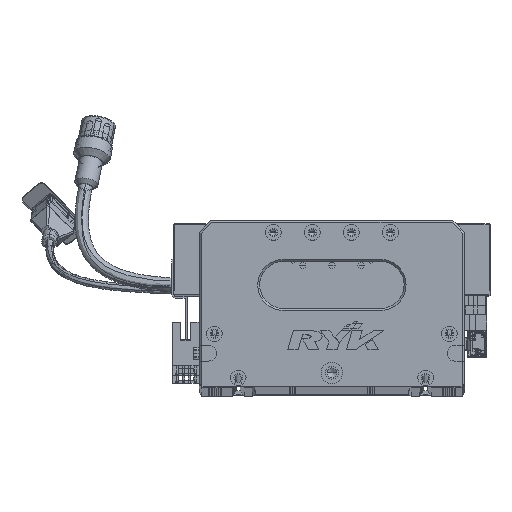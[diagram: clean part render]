
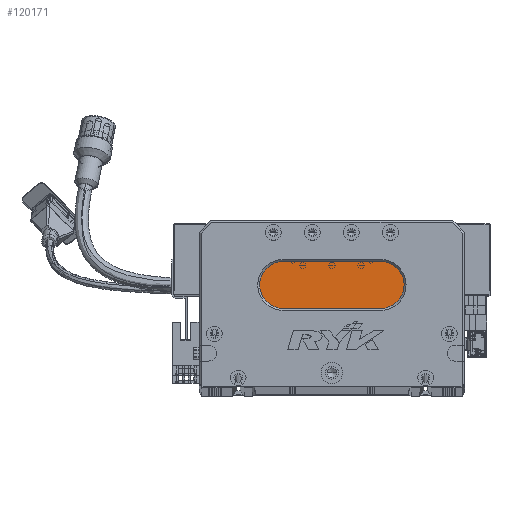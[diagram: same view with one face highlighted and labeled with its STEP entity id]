
A CAD part, top view. The second image highlights one B-rep face of the part: STEP entity #120171.
In plain terms, the highlighted planar face has unit normal (0, 0, 1) as drawn and (0, 0, -1) by its records, which use the part's own axes.
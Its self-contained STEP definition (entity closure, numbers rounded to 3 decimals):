
#10664 = VECTOR ( 'NONE', #104779, 1000. ) ;
#13291 = EDGE_CURVE ( 'NONE', #73472, #84808, #92854, .T. ) ;
#13769 = CARTESIAN_POINT ( 'NONE',  ( 93., 64., 13. ) ) ;
#14686 = CARTESIAN_POINT ( 'NONE',  ( 43., 52., 13. ) ) ;
#15822 = CARTESIAN_POINT ( 'NONE',  ( 93., 40., 13. ) ) ;
#18246 = CARTESIAN_POINT ( 'NONE',  ( 43., 64., 13. ) ) ;
#20303 = CARTESIAN_POINT ( 'NONE',  ( 31., 52., 13. ) ) ;
#21391 = DIRECTION ( 'NONE',  ( 0., 0., -1. ) ) ;
#28106 = EDGE_CURVE ( 'NONE', #84808, #84203, #83519, .T. ) ;
#28629 = VECTOR ( 'NONE', #114158, 1000. ) ;
#29454 = VERTEX_POINT ( 'NONE', #73575 ) ;
#33891 = EDGE_CURVE ( 'NONE', #29454, #73472, #116706, .T. ) ;
#35783 = EDGE_CURVE ( 'NONE', #43758, #29454, #80864, .T. ) ;
#38005 = AXIS2_PLACEMENT_3D ( 'NONE', #73086, #122320, #92736 ) ;
#40425 = FACE_OUTER_BOUND ( 'NONE', #70078, .T. ) ;
#43758 = VERTEX_POINT ( 'NONE', #13769 ) ;
#44400 = CARTESIAN_POINT ( 'NONE',  ( 93., 64., 13. ) ) ;
#46270 = DIRECTION ( 'NONE',  ( 0., 0., -1. ) ) ;
#46687 = DIRECTION ( 'NONE',  ( -1., 0., 0. ) ) ;
#49331 = ORIENTED_EDGE ( 'NONE', *, *, #33891, .T. ) ;
#50185 = CARTESIAN_POINT ( 'NONE',  ( 43., 40., 13. ) ) ;
#55943 = PLANE ( 'NONE',  #103958 ) ;
#70078 = EDGE_LOOP ( 'NONE', ( #92270, #49331, #94274, #93736, #85092 ) ) ;
#73086 = CARTESIAN_POINT ( 'NONE',  ( 43., 52., 13. ) ) ;
#73142 = EDGE_CURVE ( 'NONE', #84203, #43758, #97325, .T. ) ;
#73472 = VERTEX_POINT ( 'NONE', #50185 ) ;
#73575 = CARTESIAN_POINT ( 'NONE',  ( 93., 40., 13. ) ) ;
#80864 = CIRCLE ( 'NONE', #83568, 12. ) ;
#83519 = CIRCLE ( 'NONE', #38005, 12. ) ;
#83568 = AXIS2_PLACEMENT_3D ( 'NONE', #110307, #21391, #90293 ) ;
#84203 = VERTEX_POINT ( 'NONE', #18246 ) ;
#84808 = VERTEX_POINT ( 'NONE', #20303 ) ;
#85092 = ORIENTED_EDGE ( 'NONE', *, *, #73142, .T. ) ;
#90293 = DIRECTION ( 'NONE',  ( -1., 0., 0. ) ) ;
#92270 = ORIENTED_EDGE ( 'NONE', *, *, #35783, .T. ) ;
#92736 = DIRECTION ( 'NONE',  ( -1., 0., 0. ) ) ;
#92854 = CIRCLE ( 'NONE', #104539, 12. ) ;
#93736 = ORIENTED_EDGE ( 'NONE', *, *, #28106, .T. ) ;
#94055 = DIRECTION ( 'NONE',  ( -1., 0., 0. ) ) ;
#94274 = ORIENTED_EDGE ( 'NONE', *, *, #13291, .T. ) ;
#97325 = LINE ( 'NONE', #44400, #28629 ) ;
#103958 = AXIS2_PLACEMENT_3D ( 'NONE', #115638, #46270, #46687 ) ;
#104539 = AXIS2_PLACEMENT_3D ( 'NONE', #14686, #124064, #94055 ) ;
#104779 = DIRECTION ( 'NONE',  ( -1., 0., 0. ) ) ;
#110307 = CARTESIAN_POINT ( 'NONE',  ( 93., 52., 13. ) ) ;
#114158 = DIRECTION ( 'NONE',  ( 1., 0., 0. ) ) ;
#115638 = CARTESIAN_POINT ( 'NONE',  ( 93., 52., 13. ) ) ;
#116706 = LINE ( 'NONE', #15822, #10664 ) ;
#120171 = ADVANCED_FACE ( 'NONE', ( #40425 ), #55943, .T. ) ;
#122320 = DIRECTION ( 'NONE',  ( 0., 0., -1. ) ) ;
#124064 = DIRECTION ( 'NONE',  ( 0., 0., -1. ) ) ;
